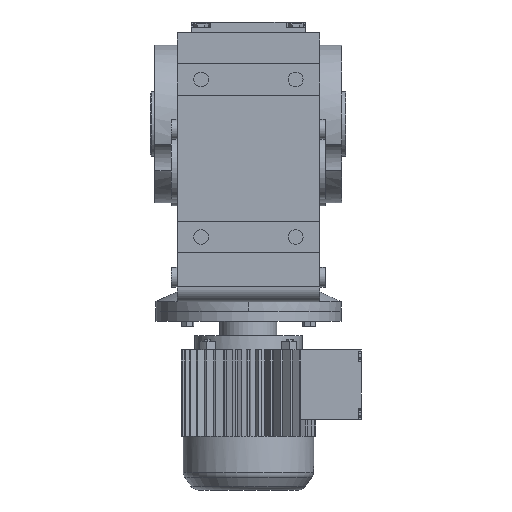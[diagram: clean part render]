
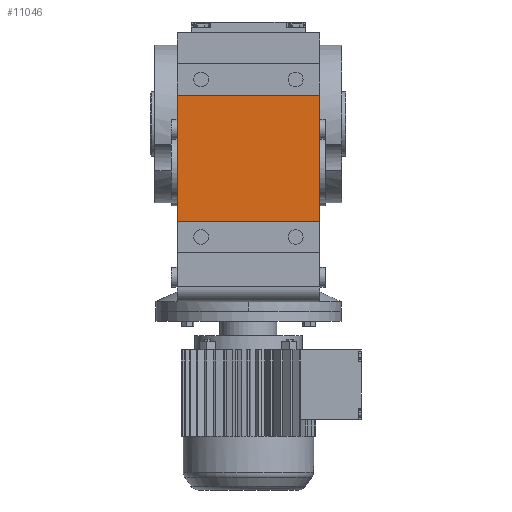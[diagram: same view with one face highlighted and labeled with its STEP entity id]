
A CAD part, front view. The second image highlights one B-rep face of the part: STEP entity #11046.
In plain terms, the highlighted planar face has unit normal (0, -1, 0).
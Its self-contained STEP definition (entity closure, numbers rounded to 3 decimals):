
#1257 = PLANE('',#1258);
#1258 = AXIS2_PLACEMENT_3D('',#1259,#1260,#1261);
#1259 = CARTESIAN_POINT('',(77.,-157.7,-175.9));
#1260 = DIRECTION('',(-1.,0.,0.));
#1261 = DIRECTION('',(0.,0.,1.));
#6229 = VERTEX_POINT('',#6230);
#6230 = CARTESIAN_POINT('',(77.,-173.7,31.));
#6244 = PLANE('',#6245);
#6245 = AXIS2_PLACEMENT_3D('',#6246,#6247,#6248);
#6246 = CARTESIAN_POINT('',(-77.,-173.7,31.));
#6247 = DIRECTION('',(0.,0.,-1.));
#6248 = DIRECTION('',(-1.,0.,0.));
#6256 = EDGE_CURVE('',#6229,#6257,#6259,.T.);
#6257 = VERTEX_POINT('',#6258);
#6258 = CARTESIAN_POINT('',(77.,-173.7,-105.));
#6259 = SURFACE_CURVE('',#6260,(#6264,#6271),.PCURVE_S1.);
#6260 = LINE('',#6261,#6262);
#6261 = CARTESIAN_POINT('',(77.,-173.7,31.));
#6262 = VECTOR('',#6263,1.);
#6263 = DIRECTION('',(0.,0.,-1.));
#6264 = PCURVE('',#1257,#6265);
#6265 = DEFINITIONAL_REPRESENTATION('',(#6266),#6270);
#6266 = LINE('',#6267,#6268);
#6267 = CARTESIAN_POINT('',(206.9,-16.));
#6268 = VECTOR('',#6269,1.);
#6269 = DIRECTION('',(-1.,0.));
#6270 = ( GEOMETRIC_REPRESENTATION_CONTEXT(2) 
PARAMETRIC_REPRESENTATION_CONTEXT() REPRESENTATION_CONTEXT('2D SPACE',''
  ) );
#6271 = PCURVE('',#6272,#6277);
#6272 = PLANE('',#6273);
#6273 = AXIS2_PLACEMENT_3D('',#6274,#6275,#6276);
#6274 = CARTESIAN_POINT('',(-77.,-173.7,31.));
#6275 = DIRECTION('',(0.,-1.,0.));
#6276 = DIRECTION('',(0.,0.,-1.));
#6277 = DEFINITIONAL_REPRESENTATION('',(#6278),#6282);
#6278 = LINE('',#6279,#6280);
#6279 = CARTESIAN_POINT('',(0.,154.));
#6280 = VECTOR('',#6281,1.);
#6281 = DIRECTION('',(1.,0.));
#6282 = ( GEOMETRIC_REPRESENTATION_CONTEXT(2) 
PARAMETRIC_REPRESENTATION_CONTEXT() REPRESENTATION_CONTEXT('2D SPACE',''
  ) );
#6300 = PLANE('',#6301);
#6301 = AXIS2_PLACEMENT_3D('',#6302,#6303,#6304);
#6302 = CARTESIAN_POINT('',(-77.,-173.7,-105.));
#6303 = DIRECTION('',(0.,0.,1.));
#6304 = DIRECTION('',(1.,0.,0.));
#10105 = PLANE('',#10106);
#10106 = AXIS2_PLACEMENT_3D('',#10107,#10108,#10109);
#10107 = CARTESIAN_POINT('',(-77.,-157.7,-175.9));
#10108 = DIRECTION('',(-1.,0.,0.));
#10109 = DIRECTION('',(0.,0.,1.));
#11046 = ADVANCED_FACE('',(#11047),#6272,.T.);
#11047 = FACE_BOUND('',#11048,.T.);
#11048 = EDGE_LOOP('',(#11049,#11072,#11073,#11096));
#11049 = ORIENTED_EDGE('',*,*,#11050,.T.);
#11050 = EDGE_CURVE('',#11051,#6257,#11053,.T.);
#11051 = VERTEX_POINT('',#11052);
#11052 = CARTESIAN_POINT('',(-77.,-173.7,-105.));
#11053 = SURFACE_CURVE('',#11054,(#11058,#11065),.PCURVE_S1.);
#11054 = LINE('',#11055,#11056);
#11055 = CARTESIAN_POINT('',(-77.,-173.7,-105.));
#11056 = VECTOR('',#11057,1.);
#11057 = DIRECTION('',(1.,0.,0.));
#11058 = PCURVE('',#6272,#11059);
#11059 = DEFINITIONAL_REPRESENTATION('',(#11060),#11064);
#11060 = LINE('',#11061,#11062);
#11061 = CARTESIAN_POINT('',(136.,0.));
#11062 = VECTOR('',#11063,1.);
#11063 = DIRECTION('',(0.,1.));
#11064 = ( GEOMETRIC_REPRESENTATION_CONTEXT(2) 
PARAMETRIC_REPRESENTATION_CONTEXT() REPRESENTATION_CONTEXT('2D SPACE',''
  ) );
#11065 = PCURVE('',#6300,#11066);
#11066 = DEFINITIONAL_REPRESENTATION('',(#11067),#11071);
#11067 = LINE('',#11068,#11069);
#11068 = CARTESIAN_POINT('',(0.,0.));
#11069 = VECTOR('',#11070,1.);
#11070 = DIRECTION('',(1.,0.));
#11071 = ( GEOMETRIC_REPRESENTATION_CONTEXT(2) 
PARAMETRIC_REPRESENTATION_CONTEXT() REPRESENTATION_CONTEXT('2D SPACE',''
  ) );
#11072 = ORIENTED_EDGE('',*,*,#6256,.F.);
#11073 = ORIENTED_EDGE('',*,*,#11074,.F.);
#11074 = EDGE_CURVE('',#11075,#6229,#11077,.T.);
#11075 = VERTEX_POINT('',#11076);
#11076 = CARTESIAN_POINT('',(-77.,-173.7,31.));
#11077 = SURFACE_CURVE('',#11078,(#11082,#11089),.PCURVE_S1.);
#11078 = LINE('',#11079,#11080);
#11079 = CARTESIAN_POINT('',(-77.,-173.7,31.));
#11080 = VECTOR('',#11081,1.);
#11081 = DIRECTION('',(1.,0.,0.));
#11082 = PCURVE('',#6272,#11083);
#11083 = DEFINITIONAL_REPRESENTATION('',(#11084),#11088);
#11084 = LINE('',#11085,#11086);
#11085 = CARTESIAN_POINT('',(0.,0.));
#11086 = VECTOR('',#11087,1.);
#11087 = DIRECTION('',(0.,1.));
#11088 = ( GEOMETRIC_REPRESENTATION_CONTEXT(2) 
PARAMETRIC_REPRESENTATION_CONTEXT() REPRESENTATION_CONTEXT('2D SPACE',''
  ) );
#11089 = PCURVE('',#6244,#11090);
#11090 = DEFINITIONAL_REPRESENTATION('',(#11091),#11095);
#11091 = LINE('',#11092,#11093);
#11092 = CARTESIAN_POINT('',(0.,0.));
#11093 = VECTOR('',#11094,1.);
#11094 = DIRECTION('',(-1.,0.));
#11095 = ( GEOMETRIC_REPRESENTATION_CONTEXT(2) 
PARAMETRIC_REPRESENTATION_CONTEXT() REPRESENTATION_CONTEXT('2D SPACE',''
  ) );
#11096 = ORIENTED_EDGE('',*,*,#11097,.T.);
#11097 = EDGE_CURVE('',#11075,#11051,#11098,.T.);
#11098 = SURFACE_CURVE('',#11099,(#11103,#11110),.PCURVE_S1.);
#11099 = LINE('',#11100,#11101);
#11100 = CARTESIAN_POINT('',(-77.,-173.7,31.));
#11101 = VECTOR('',#11102,1.);
#11102 = DIRECTION('',(0.,0.,-1.));
#11103 = PCURVE('',#6272,#11104);
#11104 = DEFINITIONAL_REPRESENTATION('',(#11105),#11109);
#11105 = LINE('',#11106,#11107);
#11106 = CARTESIAN_POINT('',(0.,0.));
#11107 = VECTOR('',#11108,1.);
#11108 = DIRECTION('',(1.,0.));
#11109 = ( GEOMETRIC_REPRESENTATION_CONTEXT(2) 
PARAMETRIC_REPRESENTATION_CONTEXT() REPRESENTATION_CONTEXT('2D SPACE',''
  ) );
#11110 = PCURVE('',#10105,#11111);
#11111 = DEFINITIONAL_REPRESENTATION('',(#11112),#11116);
#11112 = LINE('',#11113,#11114);
#11113 = CARTESIAN_POINT('',(206.9,-16.));
#11114 = VECTOR('',#11115,1.);
#11115 = DIRECTION('',(-1.,0.));
#11116 = ( GEOMETRIC_REPRESENTATION_CONTEXT(2) 
PARAMETRIC_REPRESENTATION_CONTEXT() REPRESENTATION_CONTEXT('2D SPACE',''
  ) );
